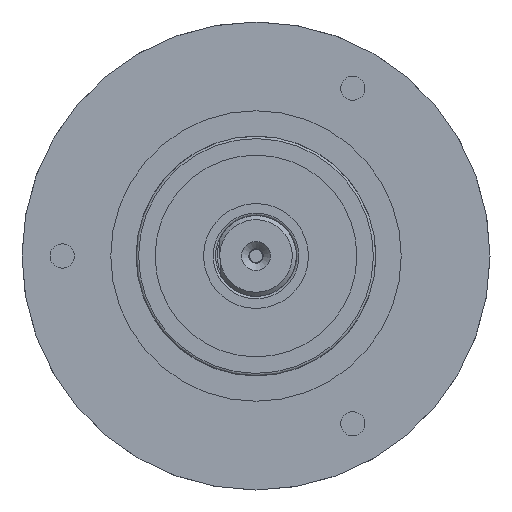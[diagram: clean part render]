
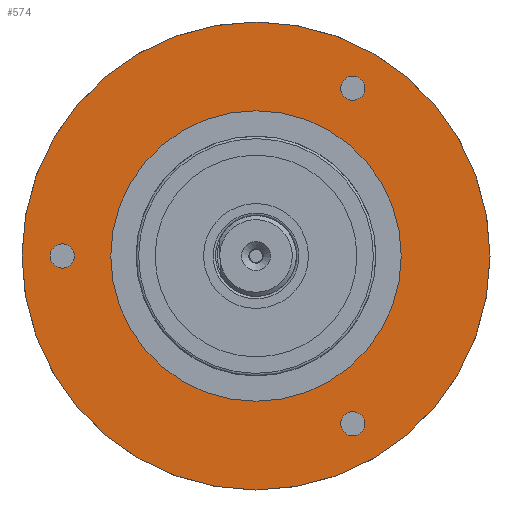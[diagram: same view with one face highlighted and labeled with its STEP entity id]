
A CAD part, left-side view. The second image highlights one B-rep face of the part: STEP entity #574.
In plain terms, the highlighted planar face has unit normal (-1, 0, 0).
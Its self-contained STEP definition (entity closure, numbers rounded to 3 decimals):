
#428=FACE_BOUND('',#776,.T.);
#429=FACE_BOUND('',#777,.T.);
#430=FACE_BOUND('',#778,.T.);
#431=FACE_BOUND('',#779,.T.);
#432=FACE_BOUND('',#780,.T.);
#574=ADVANCED_FACE('',(#428,#429,#430,#431,#432),#679,.F.);
#679=PLANE('',#1608);
#776=EDGE_LOOP('',(#962));
#777=EDGE_LOOP('',(#963));
#778=EDGE_LOOP('',(#964));
#779=EDGE_LOOP('',(#965));
#780=EDGE_LOOP('',(#966));
#962=ORIENTED_EDGE('',*,*,#1367,.F.);
#963=ORIENTED_EDGE('',*,*,#1368,.F.);
#964=ORIENTED_EDGE('',*,*,#1369,.F.);
#965=ORIENTED_EDGE('',*,*,#1370,.F.);
#966=ORIENTED_EDGE('',*,*,#1371,.T.);
#1240=VERTEX_POINT('',#2220);
#1241=VERTEX_POINT('',#2222);
#1242=VERTEX_POINT('',#2224);
#1243=VERTEX_POINT('',#2226);
#1244=VERTEX_POINT('',#2228);
#1367=EDGE_CURVE('',#1240,#1240,#1506,.T.);
#1368=EDGE_CURVE('',#1241,#1241,#1507,.T.);
#1369=EDGE_CURVE('',#1242,#1242,#1508,.T.);
#1370=EDGE_CURVE('',#1243,#1243,#1509,.T.);
#1371=EDGE_CURVE('',#1244,#1244,#1510,.T.);
#1506=CIRCLE('',#1603,1.5);
#1507=CIRCLE('',#1604,1.5);
#1508=CIRCLE('',#1605,1.5);
#1509=CIRCLE('',#1606,18.);
#1510=CIRCLE('',#1607,29.);
#1603=AXIS2_PLACEMENT_3D('',#2219,#1810,#1811);
#1604=AXIS2_PLACEMENT_3D('',#2221,#1812,#1813);
#1605=AXIS2_PLACEMENT_3D('',#2223,#1814,#1815);
#1606=AXIS2_PLACEMENT_3D('',#2225,#1816,#1817);
#1607=AXIS2_PLACEMENT_3D('',#2227,#1818,#1819);
#1608=AXIS2_PLACEMENT_3D('',#2229,#1820,#1821);
#1810=DIRECTION('',(-1.,0.,0.));
#1811=DIRECTION('',(0.,-0.866,-0.5));
#1812=DIRECTION('',(-1.,0.,0.));
#1813=DIRECTION('',(0.,0.866,-0.5));
#1814=DIRECTION('',(-1.,0.,0.));
#1815=DIRECTION('',(0.,0.,1.));
#1816=DIRECTION('',(-1.,0.,0.));
#1817=DIRECTION('',(0.,0.,1.));
#1818=DIRECTION('',(-1.,0.,0.));
#1819=DIRECTION('',(0.,0.,1.));
#1820=DIRECTION('',(1.,0.,0.));
#1821=DIRECTION('',(0.,0.,1.));
#2219=CARTESIAN_POINT('',(14.014,18.78,67.93));
#2220=CARTESIAN_POINT('',(14.014,17.481,67.18));
#2221=CARTESIAN_POINT('',(14.014,18.78,26.361));
#2222=CARTESIAN_POINT('',(14.014,20.079,25.611));
#2223=CARTESIAN_POINT('',(14.014,54.78,47.146));
#2224=CARTESIAN_POINT('',(14.014,54.78,48.646));
#2225=CARTESIAN_POINT('',(14.014,30.78,47.146));
#2226=CARTESIAN_POINT('',(14.014,30.78,65.146));
#2227=CARTESIAN_POINT('',(14.014,30.78,47.146));
#2228=CARTESIAN_POINT('',(14.014,30.78,76.146));
#2229=CARTESIAN_POINT('',(14.014,48.78,47.146));
